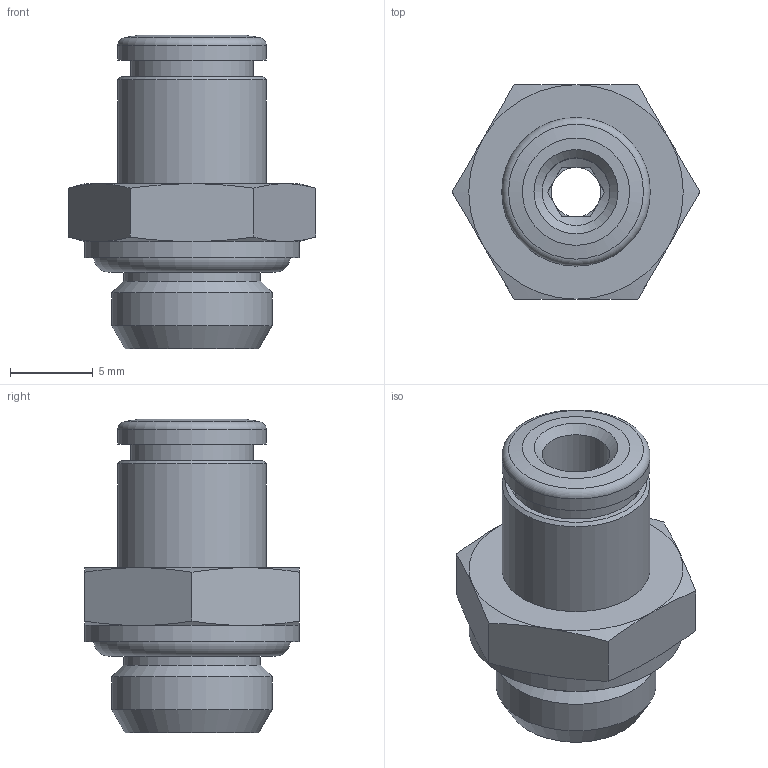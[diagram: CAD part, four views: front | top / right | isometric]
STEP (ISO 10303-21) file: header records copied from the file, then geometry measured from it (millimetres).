
FILE_DESCRIPTION(/* description */ (''),/* implementation_level */ '2;1');
FILE_NAME(/* name */ '200102-ES_STX01_4_G18_28.04.16',/* time_stamp */ '2016-04-28T11:05:10+02:00',/* author */ (''),/* organization */ (''),/* preprocessor_version */ 'ST-DEVELOPER v14',/* originating_system */ 'HiCAD 2013 1802.4 Build 509',/* authorisation */ '');
FILE_SCHEMA (('AUTOMOTIVE_DESIGN { 1 0 10303 214 1 1 1 1 }'));
Length unit declared in the file: millimetre
Products named in the file (4): Root; 001_000X; R200102-ES-N; DR4-1_NEU
Assembly tree (3 placements, depth 2):
  Root
    001_000X
    R200102-ES-N
    DR4-1_NEU
Bounding box: 15.01 x 13 x 19 mm (x, y, z)
Volume: 1199.3 mm3; surface area: 1698.4 mm2
Topology: 3 solids, 3 shells, 67 faces, 140 edges, 82 vertices
Faces by surface type: plane 27, cone 24, cylinder 12, torus 4
Full cylindrical faces by diameter (mm): 3 x1, 4.1 x2, 6.4 x1, 7.3 x1, 7.4 x1, 7.6 x1, 8.3 x1, 9 x2, 9.728 x1, 13 x1
Entity records: 2798 total; most frequent: DIRECTION 334, CARTESIAN_POINT 255, PRESENTATION_STYLE_ASSIGNMENT 223, OVER_RIDING_STYLED_ITEM 220, COLOUR_RGB 215, DRAUGHTING_PRE_DEFINED_CURVE_FONT 212, CURVE_STYLE 212, ORIENTED_EDGE 212
